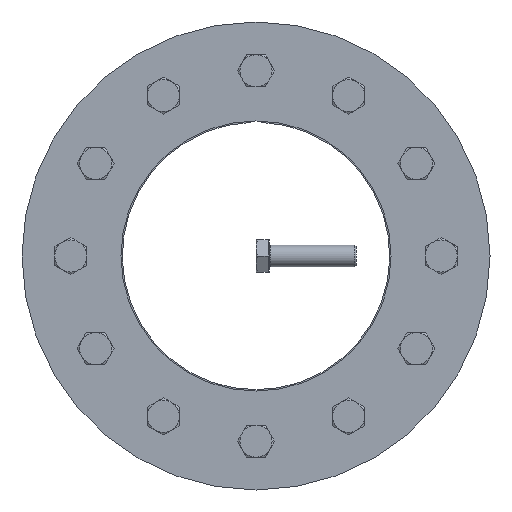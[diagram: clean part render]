
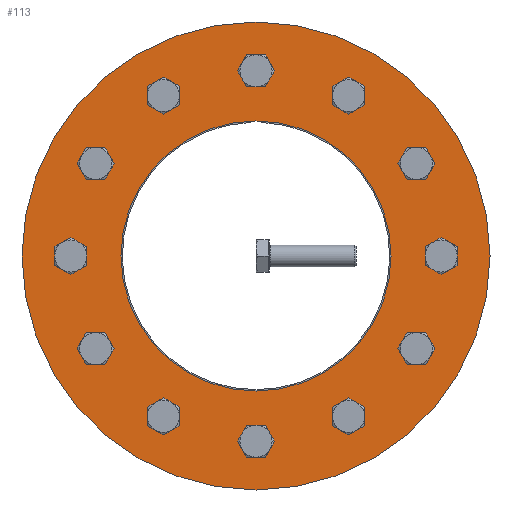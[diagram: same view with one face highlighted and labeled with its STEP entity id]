
A CAD part, front view. The second image highlights one B-rep face of the part: STEP entity #113.
In plain terms, the highlighted planar face has unit normal (0, -1, 0).
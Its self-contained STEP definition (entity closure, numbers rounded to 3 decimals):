
#113 = ADVANCED_FACE( '', ( #263, #264, #265, #266, #267, #268, #269, #270, #271, #272, #273, #274, #275, #276 ), #277, .F. );
#263 = FACE_BOUND( '', #524, .T. );
#264 = FACE_BOUND( '', #525, .T. );
#265 = FACE_BOUND( '', #526, .T. );
#266 = FACE_BOUND( '', #527, .T. );
#267 = FACE_BOUND( '', #528, .T. );
#268 = FACE_BOUND( '', #529, .T. );
#269 = FACE_BOUND( '', #530, .T. );
#270 = FACE_OUTER_BOUND( '', #531, .T. );
#271 = FACE_BOUND( '', #532, .T. );
#272 = FACE_BOUND( '', #533, .T. );
#273 = FACE_BOUND( '', #534, .T. );
#274 = FACE_BOUND( '', #535, .T. );
#275 = FACE_BOUND( '', #536, .T. );
#276 = FACE_BOUND( '', #537, .T. );
#277 = PLANE( '', #538 );
#524 = EDGE_LOOP( '', ( #853 ) );
#525 = EDGE_LOOP( '', ( #854 ) );
#526 = EDGE_LOOP( '', ( #855 ) );
#527 = EDGE_LOOP( '', ( #856 ) );
#528 = EDGE_LOOP( '', ( #857 ) );
#529 = EDGE_LOOP( '', ( #858 ) );
#530 = EDGE_LOOP( '', ( #859 ) );
#531 = EDGE_LOOP( '', ( #860 ) );
#532 = EDGE_LOOP( '', ( #861 ) );
#533 = EDGE_LOOP( '', ( #862 ) );
#534 = EDGE_LOOP( '', ( #863 ) );
#535 = EDGE_LOOP( '', ( #864 ) );
#536 = EDGE_LOOP( '', ( #865 ) );
#537 = EDGE_LOOP( '', ( #866 ) );
#538 = AXIS2_PLACEMENT_3D( '', #867, #868, #869 );
#853 = ORIENTED_EDGE( '', *, *, #1249, .T. );
#854 = ORIENTED_EDGE( '', *, *, #1250, .T. );
#855 = ORIENTED_EDGE( '', *, *, #1251, .T. );
#856 = ORIENTED_EDGE( '', *, *, #1252, .T. );
#857 = ORIENTED_EDGE( '', *, *, #1210, .T. );
#858 = ORIENTED_EDGE( '', *, *, #1244, .T. );
#859 = ORIENTED_EDGE( '', *, *, #1215, .F. );
#860 = ORIENTED_EDGE( '', *, *, #1253, .T. );
#861 = ORIENTED_EDGE( '', *, *, #1237, .T. );
#862 = ORIENTED_EDGE( '', *, *, #1254, .T. );
#863 = ORIENTED_EDGE( '', *, *, #1255, .T. );
#864 = ORIENTED_EDGE( '', *, *, #1256, .T. );
#865 = ORIENTED_EDGE( '', *, *, #1204, .T. );
#866 = ORIENTED_EDGE( '', *, *, #1257, .T. );
#867 = CARTESIAN_POINT( '', ( 0., -43., 175. ) );
#868 = DIRECTION( '', ( 0., 1., 0. ) );
#869 = DIRECTION( '', ( 0., 0., 1. ) );
#1204 = EDGE_CURVE( '', #1404, #1404, #1405, .T. );
#1210 = EDGE_CURVE( '', #1414, #1414, #1415, .T. );
#1215 = EDGE_CURVE( '', #1423, #1423, #1424, .T. );
#1237 = EDGE_CURVE( '', #1462, #1462, #1463, .T. );
#1244 = EDGE_CURVE( '', #1473, #1473, #1474, .T. );
#1249 = EDGE_CURVE( '', #1481, #1481, #1482, .T. );
#1250 = EDGE_CURVE( '', #1483, #1483, #1484, .T. );
#1251 = EDGE_CURVE( '', #1485, #1485, #1486, .T. );
#1252 = EDGE_CURVE( '', #1487, #1487, #1488, .T. );
#1253 = EDGE_CURVE( '', #1489, #1489, #1490, .T. );
#1254 = EDGE_CURVE( '', #1491, #1491, #1492, .T. );
#1255 = EDGE_CURVE( '', #1493, #1493, #1494, .T. );
#1256 = EDGE_CURVE( '', #1495, #1495, #1496, .T. );
#1257 = EDGE_CURVE( '', #1497, #1497, #1498, .T. );
#1404 = VERTEX_POINT( '', #1795 );
#1405 = CIRCLE( '', #1796, 8. );
#1414 = VERTEX_POINT( '', #1805 );
#1415 = CIRCLE( '', #1806, 8. );
#1423 = VERTEX_POINT( '', #1814 );
#1424 = CIRCLE( '', #1815, 101. );
#1462 = VERTEX_POINT( '', #1870 );
#1463 = CIRCLE( '', #1871, 8. );
#1473 = VERTEX_POINT( '', #1884 );
#1474 = CIRCLE( '', #1885, 8. );
#1481 = VERTEX_POINT( '', #1892 );
#1482 = CIRCLE( '', #1893, 8. );
#1483 = VERTEX_POINT( '', #1894 );
#1484 = CIRCLE( '', #1895, 8. );
#1485 = VERTEX_POINT( '', #1896 );
#1486 = CIRCLE( '', #1897, 8. );
#1487 = VERTEX_POINT( '', #1898 );
#1488 = CIRCLE( '', #1899, 8. );
#1489 = VERTEX_POINT( '', #1900 );
#1490 = CIRCLE( '', #1901, 175. );
#1491 = VERTEX_POINT( '', #1902 );
#1492 = CIRCLE( '', #1903, 8. );
#1493 = VERTEX_POINT( '', #1904 );
#1494 = CIRCLE( '', #1905, 8. );
#1495 = VERTEX_POINT( '', #1906 );
#1496 = CIRCLE( '', #1907, 8. );
#1497 = VERTEX_POINT( '', #1908 );
#1498 = CIRCLE( '', #1909, 8. );
#1795 = CARTESIAN_POINT( '', ( -138.5, -43., 8. ) );
#1796 = AXIS2_PLACEMENT_3D( '', #2101, #2102, #2103 );
#1805 = CARTESIAN_POINT( '', ( 123.945, -43., 62.322 ) );
#1806 = AXIS2_PLACEMENT_3D( '', #2113, #2114, #2115 );
#1814 = CARTESIAN_POINT( '', ( 0., -43., -101. ) );
#1815 = AXIS2_PLACEMENT_3D( '', #2125, #2126, #2127 );
#1870 = CARTESIAN_POINT( '', ( 76.178, -43., 115.945 ) );
#1871 = AXIS2_PLACEMENT_3D( '', #2151, #2152, #2153 );
#1884 = CARTESIAN_POINT( '', ( 8., -43., 138.5 ) );
#1885 = AXIS2_PLACEMENT_3D( '', #2163, #2164, #2165 );
#1892 = CARTESIAN_POINT( '', ( -115.945, -43., 76.178 ) );
#1893 = AXIS2_PLACEMENT_3D( '', #2172, #2173, #2174 );
#1894 = CARTESIAN_POINT( '', ( -123.945, -43., -62.322 ) );
#1895 = AXIS2_PLACEMENT_3D( '', #2175, #2176, #2177 );
#1896 = CARTESIAN_POINT( '', ( -8., -43., -138.5 ) );
#1897 = AXIS2_PLACEMENT_3D( '', #2178, #2179, #2180 );
#1898 = CARTESIAN_POINT( '', ( 115.945, -43., -76.178 ) );
#1899 = AXIS2_PLACEMENT_3D( '', #2181, #2182, #2183 );
#1900 = CARTESIAN_POINT( '', ( 0., -43., -175. ) );
#1901 = AXIS2_PLACEMENT_3D( '', #2184, #2185, #2186 );
#1902 = CARTESIAN_POINT( '', ( 138.5, -43., -8. ) );
#1903 = AXIS2_PLACEMENT_3D( '', #2187, #2188, #2189 );
#1904 = CARTESIAN_POINT( '', ( 62.322, -43., -123.945 ) );
#1905 = AXIS2_PLACEMENT_3D( '', #2190, #2191, #2192 );
#1906 = CARTESIAN_POINT( '', ( -76.178, -43., -115.945 ) );
#1907 = AXIS2_PLACEMENT_3D( '', #2193, #2194, #2195 );
#1908 = CARTESIAN_POINT( '', ( -62.322, -43., 123.945 ) );
#1909 = AXIS2_PLACEMENT_3D( '', #2196, #2197, #2198 );
#2101 = CARTESIAN_POINT( '', ( -138.5, -43., 0. ) );
#2102 = DIRECTION( '', ( 0., 1., 0. ) );
#2103 = DIRECTION( '', ( 0., 0., 1. ) );
#2113 = CARTESIAN_POINT( '', ( 119.945, -43., 69.25 ) );
#2114 = DIRECTION( '', ( 0., 1., 0. ) );
#2115 = DIRECTION( '', ( 0.5, 0., -0.866 ) );
#2125 = CARTESIAN_POINT( '', ( 0., -43., 0. ) );
#2126 = DIRECTION( '', ( 0., -1., 0. ) );
#2127 = DIRECTION( '', ( 0., 0., -1. ) );
#2151 = CARTESIAN_POINT( '', ( 69.25, -43., 119.945 ) );
#2152 = DIRECTION( '', ( 0., 1., 0. ) );
#2153 = DIRECTION( '', ( 0.866, 0., -0.5 ) );
#2163 = CARTESIAN_POINT( '', ( 0., -43., 138.5 ) );
#2164 = DIRECTION( '', ( 0., 1., 0. ) );
#2165 = DIRECTION( '', ( 1., 0., 0. ) );
#2172 = CARTESIAN_POINT( '', ( -119.945, -43., 69.25 ) );
#2173 = DIRECTION( '', ( 0., 1., 0. ) );
#2174 = DIRECTION( '', ( 0.5, 0., 0.866 ) );
#2175 = CARTESIAN_POINT( '', ( -119.945, -43., -69.25 ) );
#2176 = DIRECTION( '', ( 0., 1., 0. ) );
#2177 = DIRECTION( '', ( -0.5, 0., 0.866 ) );
#2178 = CARTESIAN_POINT( '', ( 0., -43., -138.5 ) );
#2179 = DIRECTION( '', ( 0., 1., 0. ) );
#2180 = DIRECTION( '', ( -1., 0., 0. ) );
#2181 = CARTESIAN_POINT( '', ( 119.945, -43., -69.25 ) );
#2182 = DIRECTION( '', ( 0., 1., 0. ) );
#2183 = DIRECTION( '', ( -0.5, 0., -0.866 ) );
#2184 = CARTESIAN_POINT( '', ( 0., -43., 0. ) );
#2185 = DIRECTION( '', ( 0., -1., 0. ) );
#2186 = DIRECTION( '', ( 0., 0., -1. ) );
#2187 = CARTESIAN_POINT( '', ( 138.5, -43., 0. ) );
#2188 = DIRECTION( '', ( 0., 1., 0. ) );
#2189 = DIRECTION( '', ( 0., 0., -1. ) );
#2190 = CARTESIAN_POINT( '', ( 69.25, -43., -119.945 ) );
#2191 = DIRECTION( '', ( 0., 1., 0. ) );
#2192 = DIRECTION( '', ( -0.866, 0., -0.5 ) );
#2193 = CARTESIAN_POINT( '', ( -69.25, -43., -119.945 ) );
#2194 = DIRECTION( '', ( 0., 1., 0. ) );
#2195 = DIRECTION( '', ( -0.866, 0., 0.5 ) );
#2196 = CARTESIAN_POINT( '', ( -69.25, -43., 119.945 ) );
#2197 = DIRECTION( '', ( 0., 1., 0. ) );
#2198 = DIRECTION( '', ( 0.866, 0., 0.5 ) );
